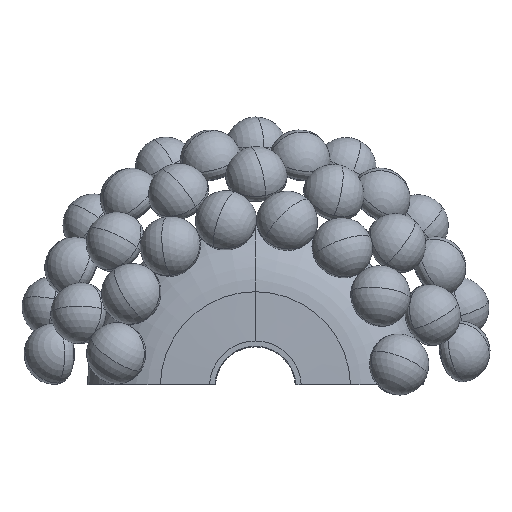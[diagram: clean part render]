
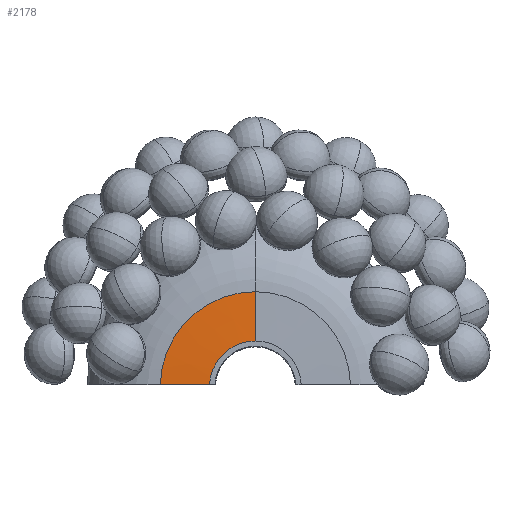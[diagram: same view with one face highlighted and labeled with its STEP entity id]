
A CAD part, front view. The second image highlights one B-rep face of the part: STEP entity #2178.
In plain terms, the highlighted conical face has half-angle 87.5 degrees and reference radius 30 mm.
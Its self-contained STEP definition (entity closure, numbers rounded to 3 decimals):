
#95 = CIRCLE ( 'NONE', #14114, 62.181 ) ;
#641 = B_SPLINE_CURVE_WITH_KNOTS ( 'NONE', 3,
 ( #14503, #21115, #6379, #19275 ),
 .UNSPECIFIED., .F., .F.,
 ( 4, 4 ),
 ( 0.167, 0.199 ),
 .UNSPECIFIED. ) ;
#917 = CIRCLE ( 'NONE', #15286, 30. ) ;
#1390 = CARTESIAN_POINT ( 'NONE',  ( -62.163, -49.952, 1.5 ) ) ;
#1620 = DIRECTION ( 'NONE',  ( 0., 1., 0. ) ) ;
#2082 = AXIS2_PLACEMENT_3D ( 'NONE', #18759, #10766, #8952 ) ;
#2133 = ORIENTED_EDGE ( 'NONE', *, *, #10519, .T. ) ;
#2178 = ADVANCED_FACE ( 'NONE', ( #12588 ), #20274, .T. ) ;
#2445 = DIRECTION ( 'NONE',  ( 0., 0.044, 0.999 ) ) ;
#2998 = VERTEX_POINT ( 'NONE', #16841 ) ;
#4796 = CARTESIAN_POINT ( 'NONE',  ( 0., -49.952, 62.181 ) ) ;
#4901 = ORIENTED_EDGE ( 'NONE', *, *, #16141, .F. ) ;
#5552 = EDGE_LOOP ( 'NONE', ( #13882, #2133, #4901, #6120 ) ) ;
#5964 = VERTEX_POINT ( 'NONE', #15214 ) ;
#6120 = ORIENTED_EDGE ( 'NONE', *, *, #20255, .F. ) ;
#6379 = CARTESIAN_POINT ( 'NONE',  ( -51.429, -50.421, 1.5 ) ) ;
#8952 = DIRECTION ( 'NONE',  ( 0., 0., 1. ) ) ;
#9400 = VERTEX_POINT ( 'NONE', #1390 ) ;
#9544 = DIRECTION ( 'NONE',  ( 0., 0., 1. ) ) ;
#10519 = EDGE_CURVE ( 'NONE', #5964, #14486, #15421, .T. ) ;
#10766 = DIRECTION ( 'NONE',  ( 0., 1., 0. ) ) ;
#10943 = EDGE_CURVE ( 'NONE', #2998, #5964, #917, .T. ) ;
#12588 = FACE_OUTER_BOUND ( 'NONE', #5552, .T. ) ;
#13784 = CARTESIAN_POINT ( 'NONE',  ( 0., -51.357, 30. ) ) ;
#13882 = ORIENTED_EDGE ( 'NONE', *, *, #10943, .T. ) ;
#14114 = AXIS2_PLACEMENT_3D ( 'NONE', #14497, #17018, #20249 ) ;
#14486 = VERTEX_POINT ( 'NONE', #4796 ) ;
#14497 = CARTESIAN_POINT ( 'NONE',  ( 0., -49.952, 0. ) ) ;
#14503 = CARTESIAN_POINT ( 'NONE',  ( -29.962, -51.357, 1.5 ) ) ;
#14682 = CARTESIAN_POINT ( 'NONE',  ( 0., -51.357, 0. ) ) ;
#15214 = CARTESIAN_POINT ( 'NONE',  ( 0., -51.357, 30. ) ) ;
#15286 = AXIS2_PLACEMENT_3D ( 'NONE', #14682, #1620, #9544 ) ;
#15421 = LINE ( 'NONE', #13784, #19094 ) ;
#16141 = EDGE_CURVE ( 'NONE', #9400, #14486, #95, .T. ) ;
#16841 = CARTESIAN_POINT ( 'NONE',  ( -29.962, -51.357, 1.5 ) ) ;
#17018 = DIRECTION ( 'NONE',  ( 0., 1., 0. ) ) ;
#18759 = CARTESIAN_POINT ( 'NONE',  ( 0., -51.357, 0. ) ) ;
#19094 = VECTOR ( 'NONE', #2445, 1000. ) ;
#19275 = CARTESIAN_POINT ( 'NONE',  ( -62.163, -49.952, 1.5 ) ) ;
#20249 = DIRECTION ( 'NONE',  ( 0., 0., 1. ) ) ;
#20255 = EDGE_CURVE ( 'NONE', #2998, #9400, #641, .T. ) ;
#20274 = CONICAL_SURFACE ( 'NONE', #2082, 30., 1.527 ) ;
#21115 = CARTESIAN_POINT ( 'NONE',  ( -40.696, -50.889, 1.5 ) ) ;
